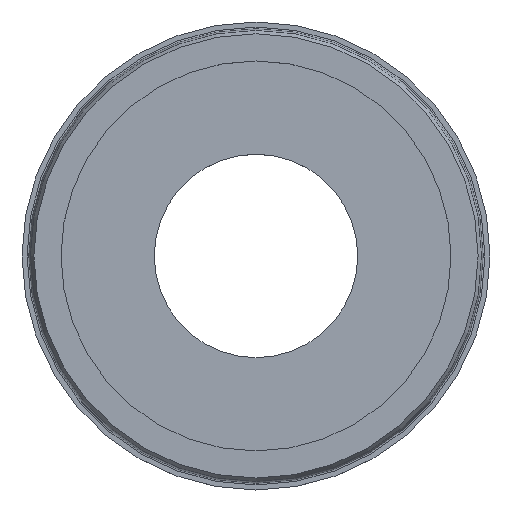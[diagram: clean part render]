
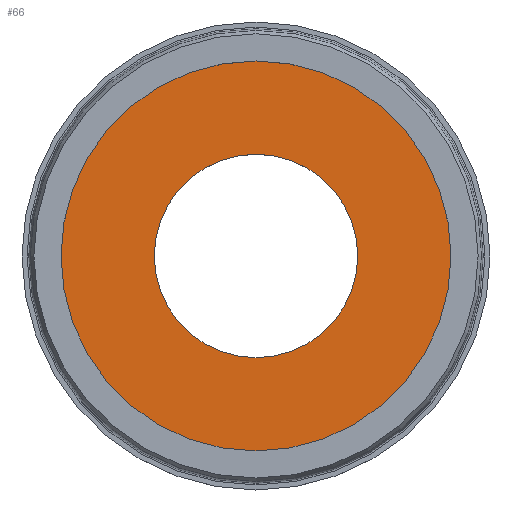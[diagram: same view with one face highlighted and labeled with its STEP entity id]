
A CAD part, top view. The second image highlights one B-rep face of the part: STEP entity #66.
In plain terms, the highlighted planar face has unit normal (0, 0, 1).
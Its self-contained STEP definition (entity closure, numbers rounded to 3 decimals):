
#50=PLANE('',#308);
#66=ADVANCED_FACE('',(#102,#103),#50,.F.);
#102=FACE_BOUND('',#146,.T.);
#103=FACE_BOUND('',#147,.T.);
#146=EDGE_LOOP('',(#190));
#147=EDGE_LOOP('',(#191));
#190=ORIENTED_EDGE('',*,*,#254,.F.);
#191=ORIENTED_EDGE('',*,*,#253,.T.);
#231=VERTEX_POINT('',#454);
#232=VERTEX_POINT('',#457);
#253=EDGE_CURVE('',#231,#231,#275,.T.);
#254=EDGE_CURVE('',#232,#232,#276,.T.);
#275=CIRCLE('',#305,3.);
#276=CIRCLE('',#307,5.75);
#305=AXIS2_PLACEMENT_3D('',#453,#371,#372);
#307=AXIS2_PLACEMENT_3D('',#456,#375,#376);
#308=AXIS2_PLACEMENT_3D('',#458,#377,#378);
#371=DIRECTION('',(0.,0.,-1.));
#372=DIRECTION('',(-1.,0.,0.));
#375=DIRECTION('',(0.,0.,-1.));
#376=DIRECTION('',(-1.,0.,0.));
#377=DIRECTION('',(0.,0.,-1.));
#378=DIRECTION('',(-1.,0.,0.));
#453=CARTESIAN_POINT('',(0.,0.,-0.65));
#454=CARTESIAN_POINT('',(-3.,0.,-0.65));
#456=CARTESIAN_POINT('',(0.,0.,-0.65));
#457=CARTESIAN_POINT('',(-5.75,0.,-0.65));
#458=CARTESIAN_POINT('',(0.,-3.,-0.65));
